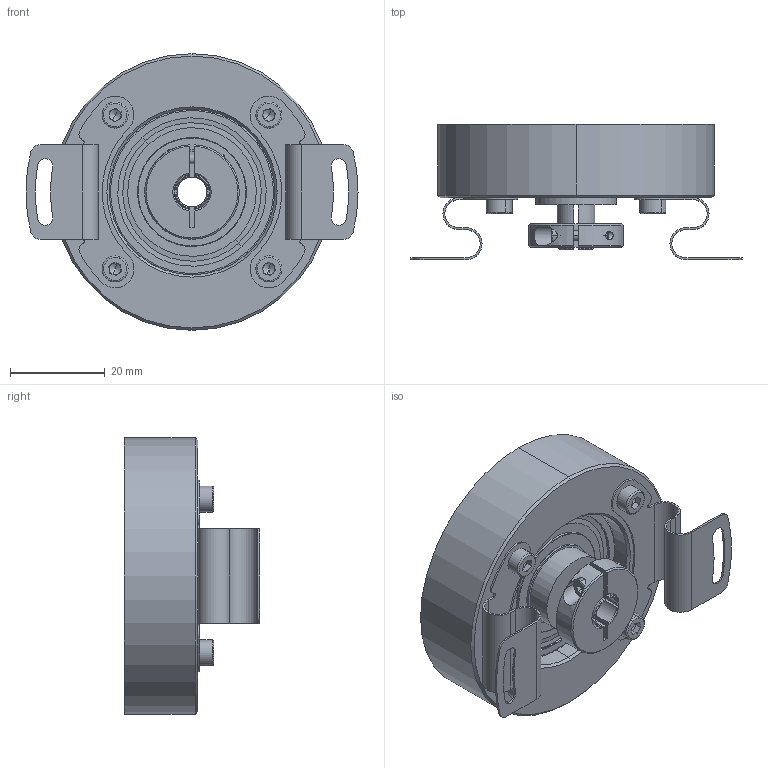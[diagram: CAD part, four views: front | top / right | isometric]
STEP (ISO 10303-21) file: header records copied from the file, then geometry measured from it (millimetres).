
FILE_DESCRIPTION (( 'STEP AP214' ), '1' );
FILE_NAME ('drawing-ucd-hrs0-q5b-n.STEP', '2017-02-20T09:57:36', ( '' ), ( '' ), 'SwSTEP 2.0', 'SolidWorks 2015', '' );
FILE_SCHEMA (( 'AUTOMOTIVE_DESIGN' ));
Length unit declared in the file: millimetre
Products named in the file (1): drawing-ucd-hrs0-q5b-n
Bounding box: 70.2 x 28.6 x 58.5 mm (x, y, z)
Volume: 37876.2 mm3; surface area: 24097.9 mm2
Topology: 27 solids, 27 shells, 471 faces, 1097 edges, 637 vertices
Faces by surface type: cylinder 153, plane 153, cone 81, bspline 64, torus 20
Entity records: 19785 total; most frequent: CARTESIAN_POINT 3862, DIRECTION 2296, ORIENTED_EDGE 2066, EDGE_CURVE 1033, AXIS2_PLACEMENT_3D 921, VERTEX_POINT 637, EDGE_LOOP 526, CIRCLE 513
